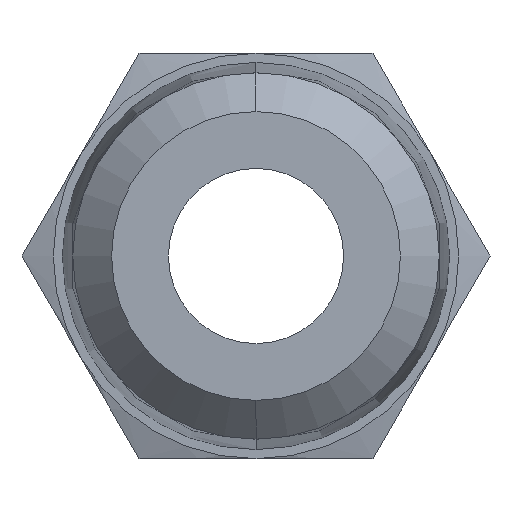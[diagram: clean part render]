
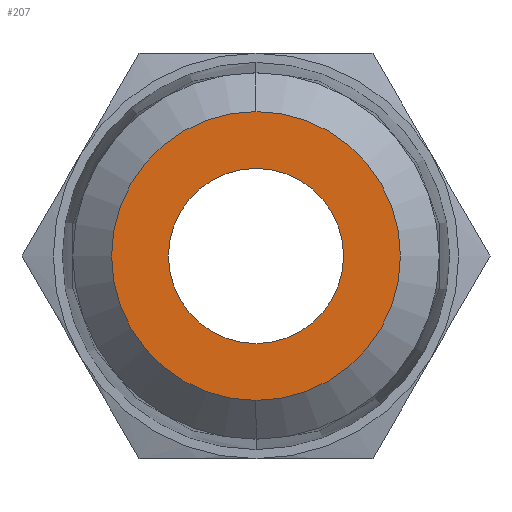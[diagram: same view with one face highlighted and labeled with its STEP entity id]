
A CAD part, left-side view. The second image highlights one B-rep face of the part: STEP entity #207.
In plain terms, the highlighted planar face has unit normal (-1, 0, 0).
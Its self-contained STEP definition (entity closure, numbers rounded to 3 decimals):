
#207 = ADVANCED_FACE ( 'NONE', ( #771, #765 ), #764, .T. ) ;
#208 = EDGE_LOOP ( 'NONE', ( #209, #211 ) ) ;
#209 = ORIENTED_EDGE ( 'NONE', *, *, #210, .T. ) ;
#210 = EDGE_CURVE ( 'NONE', #255, #376, #762, .T. ) ;
#211 = ORIENTED_EDGE ( 'NONE', *, *, #375, .T. ) ;
#212 = EDGE_LOOP ( 'NONE', ( #405, #407 ) ) ;
#255 = VERTEX_POINT ( 'NONE', #833 ) ;
#366 = VERTEX_POINT ( 'NONE', #950 ) ;
#375 = EDGE_CURVE ( 'NONE', #376, #255, #938, .T. ) ;
#376 = VERTEX_POINT ( 'NONE', #928 ) ;
#382 = EDGE_CURVE ( 'NONE', #366, #383, #922, .T. ) ;
#383 = VERTEX_POINT ( 'NONE', #1151 ) ;
#405 = ORIENTED_EDGE ( 'NONE', *, *, #406, .F. ) ;
#406 = EDGE_CURVE ( 'NONE', #383, #366, #1045, .T. ) ;
#407 = ORIENTED_EDGE ( 'NONE', *, *, #382, .F. ) ;
#755 = DIRECTION ( 'NONE',  ( 0., 0., 1. ) ) ;
#756 = DIRECTION ( 'NONE',  ( -1., 0., 0. ) ) ;
#757 = CARTESIAN_POINT ( 'NONE',  ( -10., 0., 0. ) ) ;
#758 = AXIS2_PLACEMENT_3D ( 'NONE', #757, #756, #755 ) ;
#759 = DIRECTION ( 'NONE',  ( 0., 0., 1. ) ) ;
#760 = DIRECTION ( 'NONE',  ( -1., 0., 0. ) ) ;
#761 = AXIS2_PLACEMENT_3D ( 'NONE', #763, #760, #759 ) ;
#762 = CIRCLE ( 'NONE', #758, 3.959 ) ;
#763 = CARTESIAN_POINT ( 'NONE',  ( -10., 0., 0. ) ) ;
#764 = PLANE ( 'NONE',  #761 ) ;
#765 = FACE_BOUND ( 'NONE', #212, .T. ) ;
#771 = FACE_OUTER_BOUND ( 'NONE', #208, .T. ) ;
#833 = CARTESIAN_POINT ( 'NONE',  ( -10., 0., -3.959 ) ) ;
#922 = CIRCLE ( 'NONE', #1155, 2.4 ) ;
#928 = CARTESIAN_POINT ( 'NONE',  ( -10., 0., 3.959 ) ) ;
#929 = DIRECTION ( 'NONE',  ( 0., 0., 1. ) ) ;
#930 = DIRECTION ( 'NONE',  ( -1., 0., 0. ) ) ;
#931 = CARTESIAN_POINT ( 'NONE',  ( -10., 0., 0. ) ) ;
#932 = AXIS2_PLACEMENT_3D ( 'NONE', #931, #930, #929 ) ;
#938 = CIRCLE ( 'NONE', #932, 3.959 ) ;
#950 = CARTESIAN_POINT ( 'NONE',  ( -10., 0., -2.4 ) ) ;
#1041 = DIRECTION ( 'NONE',  ( 0., 0., 1. ) ) ;
#1042 = DIRECTION ( 'NONE',  ( -1., 0., 0. ) ) ;
#1043 = CARTESIAN_POINT ( 'NONE',  ( -10., 0., 0. ) ) ;
#1044 = AXIS2_PLACEMENT_3D ( 'NONE', #1043, #1042, #1041 ) ;
#1045 = CIRCLE ( 'NONE', #1044, 2.4 ) ;
#1151 = CARTESIAN_POINT ( 'NONE',  ( -10., 0., 2.4 ) ) ;
#1152 = DIRECTION ( 'NONE',  ( 0., 0., 1. ) ) ;
#1153 = DIRECTION ( 'NONE',  ( -1., 0., 0. ) ) ;
#1154 = CARTESIAN_POINT ( 'NONE',  ( -10., 0., 0. ) ) ;
#1155 = AXIS2_PLACEMENT_3D ( 'NONE', #1154, #1153, #1152 ) ;
